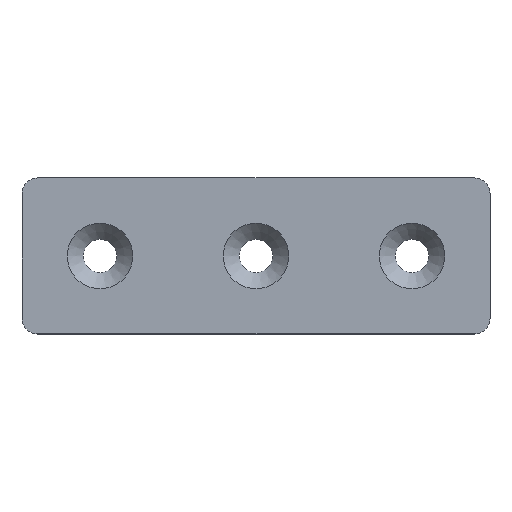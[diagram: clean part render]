
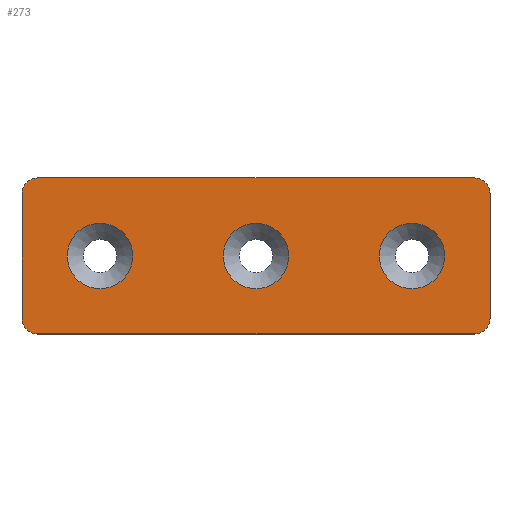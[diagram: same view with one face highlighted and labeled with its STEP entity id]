
A CAD part, top view. The second image highlights one B-rep face of the part: STEP entity #273.
In plain terms, the highlighted planar face has unit normal (0, 0, 1).
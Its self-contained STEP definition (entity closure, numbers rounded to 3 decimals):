
#27=PLANE('',#310);
#33=LINE('',#426,#49);
#37=LINE('',#438,#53);
#41=LINE('',#450,#57);
#44=LINE('',#459,#60);
#49=VECTOR('',#341,1000.);
#53=VECTOR('',#353,1000.);
#57=VECTOR('',#365,1000.);
#60=VECTOR('',#376,1000.);
#93=ORIENTED_EDGE('',*,*,#151,.F.);
#94=ORIENTED_EDGE('',*,*,#152,.F.);
#95=ORIENTED_EDGE('',*,*,#153,.F.);
#96=ORIENTED_EDGE('',*,*,#129,.T.);
#97=ORIENTED_EDGE('',*,*,#133,.T.);
#98=ORIENTED_EDGE('',*,*,#136,.T.);
#99=ORIENTED_EDGE('',*,*,#139,.T.);
#100=ORIENTED_EDGE('',*,*,#142,.T.);
#101=ORIENTED_EDGE('',*,*,#145,.T.);
#102=ORIENTED_EDGE('',*,*,#148,.T.);
#103=ORIENTED_EDGE('',*,*,#150,.T.);
#129=EDGE_CURVE('',#163,#162,#186,.T.);
#133=EDGE_CURVE('',#162,#165,#33,.T.);
#136=EDGE_CURVE('',#165,#167,#188,.T.);
#139=EDGE_CURVE('',#167,#169,#37,.T.);
#142=EDGE_CURVE('',#169,#171,#190,.T.);
#145=EDGE_CURVE('',#171,#173,#41,.T.);
#148=EDGE_CURVE('',#173,#175,#192,.T.);
#150=EDGE_CURVE('',#175,#163,#44,.T.);
#151=EDGE_CURVE('',#176,#176,#193,.T.);
#152=EDGE_CURVE('',#177,#177,#194,.T.);
#153=EDGE_CURVE('',#178,#178,#195,.T.);
#162=VERTEX_POINT('',#417);
#163=VERTEX_POINT('',#419);
#165=VERTEX_POINT('',#425);
#167=VERTEX_POINT('',#431);
#169=VERTEX_POINT('',#437);
#171=VERTEX_POINT('',#443);
#173=VERTEX_POINT('',#449);
#175=VERTEX_POINT('',#455);
#176=VERTEX_POINT('',#462);
#177=VERTEX_POINT('',#464);
#178=VERTEX_POINT('',#466);
#186=CIRCLE('',#296,3.);
#188=CIRCLE('',#300,3.);
#190=CIRCLE('',#304,3.);
#192=CIRCLE('',#308,3.);
#193=CIRCLE('',#311,6.3);
#194=CIRCLE('',#312,6.3);
#195=CIRCLE('',#313,6.3);
#210=EDGE_LOOP('',(#93));
#211=EDGE_LOOP('',(#94));
#212=EDGE_LOOP('',(#95));
#213=EDGE_LOOP('',(#96,#97,#98,#99,#100,#101,#102,#103));
#238=FACE_BOUND('',#210,.T.);
#239=FACE_BOUND('',#211,.T.);
#240=FACE_BOUND('',#212,.T.);
#241=FACE_BOUND('',#213,.T.);
#273=ADVANCED_FACE('',(#238,#239,#240,#241),#27,.T.);
#296=AXIS2_PLACEMENT_3D('',#418,#334,#335);
#300=AXIS2_PLACEMENT_3D('',#432,#347,#348);
#304=AXIS2_PLACEMENT_3D('',#444,#359,#360);
#308=AXIS2_PLACEMENT_3D('',#456,#371,#372);
#310=AXIS2_PLACEMENT_3D('',#460,#377,#378);
#311=AXIS2_PLACEMENT_3D('',#461,#379,#380);
#312=AXIS2_PLACEMENT_3D('',#463,#381,#382);
#313=AXIS2_PLACEMENT_3D('',#465,#383,#384);
#334=DIRECTION('',(0.,0.,1.));
#335=DIRECTION('',(1.,0.,0.));
#341=DIRECTION('',(0.,-1.,0.));
#347=DIRECTION('',(0.,0.,1.));
#348=DIRECTION('',(1.,0.,0.));
#353=DIRECTION('',(1.,0.,0.));
#359=DIRECTION('',(0.,0.,1.));
#360=DIRECTION('',(1.,0.,0.));
#365=DIRECTION('',(0.,1.,0.));
#371=DIRECTION('',(0.,0.,1.));
#372=DIRECTION('',(1.,0.,0.));
#376=DIRECTION('',(-1.,0.,0.));
#377=DIRECTION('',(0.,0.,1.));
#378=DIRECTION('',(1.,0.,0.));
#379=DIRECTION('',(0.,0.,1.));
#380=DIRECTION('',(1.,0.,0.));
#381=DIRECTION('',(0.,0.,1.));
#382=DIRECTION('',(1.,0.,0.));
#383=DIRECTION('',(0.,0.,1.));
#384=DIRECTION('',(1.,0.,0.));
#417=CARTESIAN_POINT('',(0.,12.,4.));
#418=CARTESIAN_POINT('',(3.,12.,4.));
#419=CARTESIAN_POINT('',(3.,15.,4.));
#425=CARTESIAN_POINT('',(0.,-12.,4.));
#426=CARTESIAN_POINT('',(0.,12.,4.));
#431=CARTESIAN_POINT('',(3.,-15.,4.));
#432=CARTESIAN_POINT('',(3.,-12.,4.));
#437=CARTESIAN_POINT('',(87.,-15.,4.));
#438=CARTESIAN_POINT('',(3.,-15.,4.));
#443=CARTESIAN_POINT('',(90.,-12.,4.));
#444=CARTESIAN_POINT('',(87.,-12.,4.));
#449=CARTESIAN_POINT('',(90.,12.,4.));
#450=CARTESIAN_POINT('',(90.,-12.,4.));
#455=CARTESIAN_POINT('',(87.,15.,4.));
#456=CARTESIAN_POINT('',(87.,12.,4.));
#459=CARTESIAN_POINT('',(87.,15.,4.));
#460=CARTESIAN_POINT('',(3.,12.,4.));
#461=CARTESIAN_POINT('',(75.,0.,4.));
#462=CARTESIAN_POINT('',(81.3,0.,4.));
#463=CARTESIAN_POINT('',(45.,0.,4.));
#464=CARTESIAN_POINT('',(51.3,0.,4.));
#465=CARTESIAN_POINT('',(15.,0.,4.));
#466=CARTESIAN_POINT('',(21.3,0.,4.));
